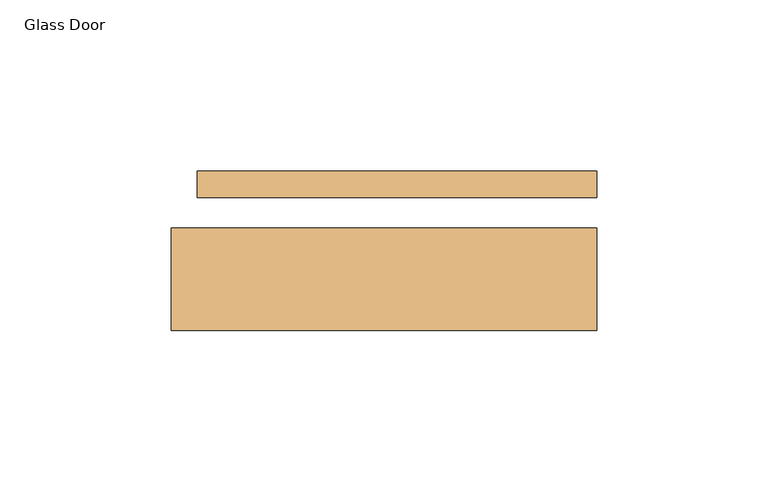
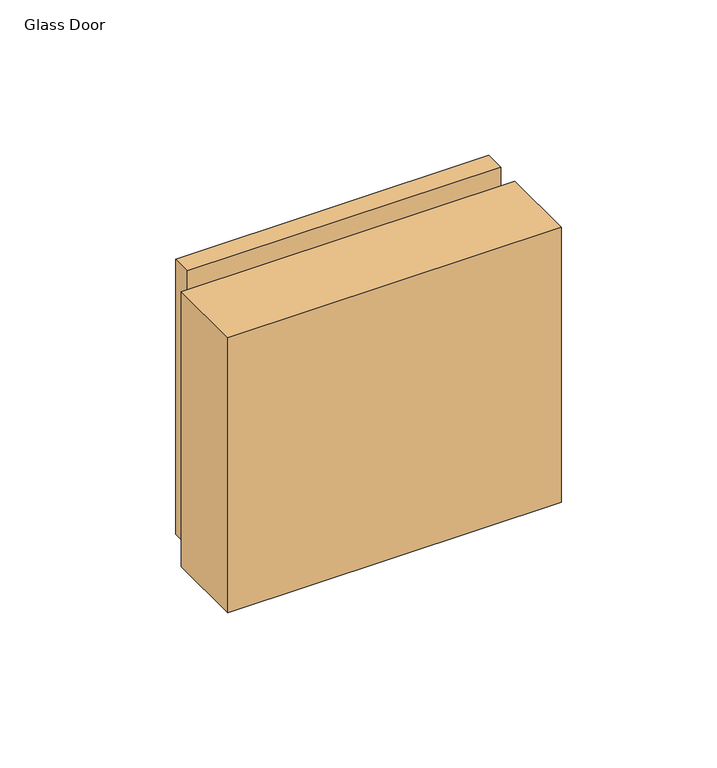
"""IFC4 building model written with IfcOpenShell, lengths in millimetres: door geometry, Door-Hinged_Glass_Full_Height-Teknion-Altos-Right_Swing : Glass Door."""

from ifc_helpers import new_model, si_unit, frame, origin, place, context, project, spatial, polyline, outline, extrude, source, transform, mapped, element, save


def glass_door_056d267c(model_context):
    return source(origin(), model_context, "Body", "SweptSolid", [
        extrude(outline(polyline([(-349.5702539, -11.6290893), (-349.5702539, -41.4740893), (-473.5631562, -41.4740893), (-473.5631562, -11.6290893), (-349.5702539, -11.6290893)])), frame((0.0, 0.0, 952.4309645), z_axis=(0.0, 0.0, 1.0), x_axis=(1.0, 0.0, 0.0)), (0.0, 0.0, 1.0), 108.090611),
        extrude(outline(polyline([(-466.0583342, -2.6120893), (-466.0583342, 5.0079107), (-349.5702539, 5.0079107), (-349.5702539, -2.6120893), (-466.0583342, -2.6120893)])), frame((0.0, 0.0, 952.4309645), z_axis=(0.0, 0.0, 1.0), x_axis=(1.0, 0.0, 0.0)), (0.0, 0.0, 1.0), 108.090611),
    ])


if __name__ == "__main__":
    model = new_model("IFC4")
    model_context = context("Model", 3, world=origin())
    ifc_project = project(units=[si_unit("LENGTHUNIT", "METRE", prefix="MILLI")], contexts=[model_context])
    site = spatial("IfcSite", under=ifc_project)
    building = spatial("IfcBuilding", under=site)
    placement = place(None, origin())
    glass_door_shape = glass_door_056d267c(model_context)
    element("IfcDoor", 1, ObjectType="Door-Hinged_Glass_Full_Height-Teknion-Altos-Right_Swing : Glass Door", at=placement, inside=building, context=model_context, shape_type="MappedRepresentation", body=[
        mapped(glass_door_shape, transform((0.0, 0.0, 0.0), x_axis=(1.0, 0.0, 0.0), y_axis=(0.0, 1.0, 0.0), z_axis=(0.0, 0.0, 1.0))),
    ])
    save(model, "model.ifc")
